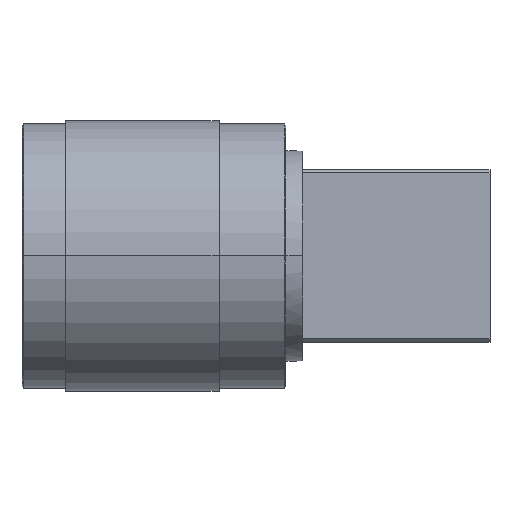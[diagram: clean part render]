
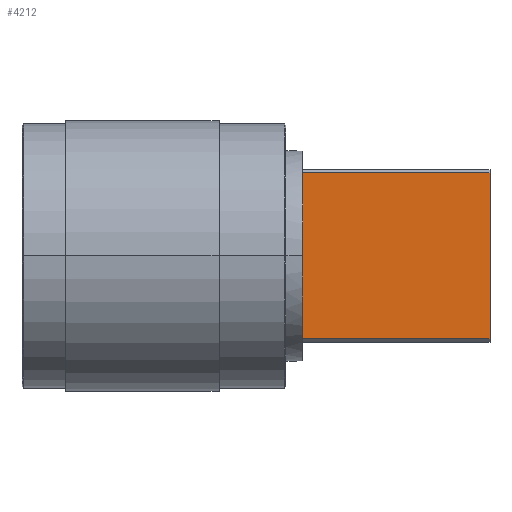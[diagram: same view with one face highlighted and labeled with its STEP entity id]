
A CAD part, top view. The second image highlights one B-rep face of the part: STEP entity #4212.
In plain terms, the highlighted planar face has unit normal (0, 0, 1).
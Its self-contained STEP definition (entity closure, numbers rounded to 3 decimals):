
#40=DIRECTION('',(1.,0.,0.));
#41=VECTOR('',#40,15.494);
#42=CARTESIAN_POINT('',(22.86,6.869,7.137));
#43=LINE('',#42,#41);
#68=DIRECTION('',(0.,-1.,0.));
#69=VECTOR('',#68,13.738);
#70=CARTESIAN_POINT('',(38.354,6.869,7.137));
#71=LINE('',#70,#69);
#317=DIRECTION('',(0.,1.,0.));
#318=VECTOR('',#317,1.873);
#319=CARTESIAN_POINT('',(22.86,4.996,7.137));
#320=LINE('',#319,#318);
#321=DIRECTION('',(-1.,0.,0.));
#322=VECTOR('',#321,15.494);
#323=CARTESIAN_POINT('',(38.354,-6.869,7.137));
#324=LINE('',#323,#322);
#3236=DIRECTION('',(0.,1.,0.));
#3237=VECTOR('',#3236,9.992);
#3238=CARTESIAN_POINT('',(22.86,-4.996,7.137));
#3239=LINE('',#3238,#3237);
#3255=DIRECTION('',(0.,1.,0.));
#3256=VECTOR('',#3255,1.873);
#3257=CARTESIAN_POINT('',(22.86,-6.869,7.137));
#3258=LINE('',#3257,#3256);
#3286=CARTESIAN_POINT('',(22.86,4.996,7.137));
#3288=VERTEX_POINT('',#3286);
#3289=CARTESIAN_POINT('',(22.86,6.869,7.137));
#3290=VERTEX_POINT('',#3289);
#3293=CARTESIAN_POINT('',(22.86,-4.996,7.137));
#3295=VERTEX_POINT('',#3293);
#3299=CARTESIAN_POINT('',(22.86,-6.869,7.137));
#3300=VERTEX_POINT('',#3299);
#3310=CARTESIAN_POINT('',(38.354,6.869,7.137));
#3312=VERTEX_POINT('',#3310);
#3313=CARTESIAN_POINT('',(38.354,-6.869,7.137));
#3314=VERTEX_POINT('',#3313);
#4196=CARTESIAN_POINT('',(24.079,0.,7.137));
#4197=DIRECTION('',(0.,0.,1.));
#4198=DIRECTION('',(-1.,0.,0.));
#4199=AXIS2_PLACEMENT_3D('',#4196,#4197,#4198);
#4200=PLANE('',#4199);
#4201=ORIENTED_EDGE('',*,*,#3797,.T.);
#4202=ORIENTED_EDGE('',*,*,#3820,.T.);
#4204=ORIENTED_EDGE('',*,*,#4203,.T.);
#4206=ORIENTED_EDGE('',*,*,#4205,.T.);
#4208=ORIENTED_EDGE('',*,*,#4207,.T.);
#4209=ORIENTED_EDGE('',*,*,#4191,.T.);
#4210=EDGE_LOOP('',(#4201,#4202,#4204,#4206,#4208,#4209));
#4211=FACE_OUTER_BOUND('',#4210,.F.);
#4212=ADVANCED_FACE('',(#4211),#4200,.T.);
#3797=EDGE_CURVE('',#3290,#3312,#43,.T.);
#3820=EDGE_CURVE('',#3312,#3314,#71,.T.);
#4191=EDGE_CURVE('',#3288,#3290,#320,.T.);
#4203=EDGE_CURVE('',#3314,#3300,#324,.T.);
#4205=EDGE_CURVE('',#3300,#3295,#3258,.T.);
#4207=EDGE_CURVE('',#3295,#3288,#3239,.T.);
